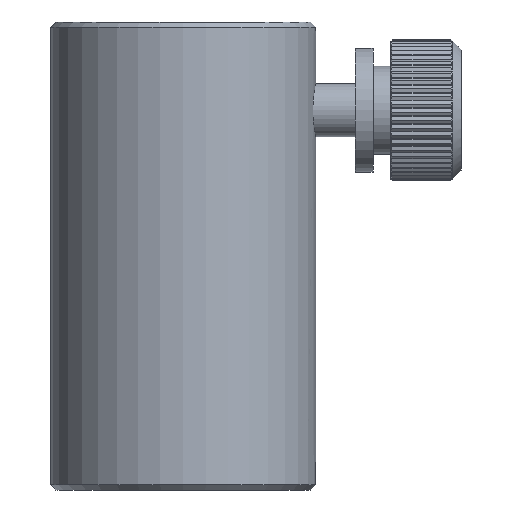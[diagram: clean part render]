
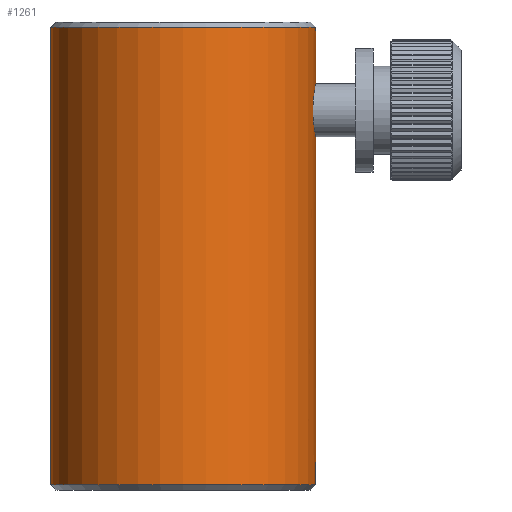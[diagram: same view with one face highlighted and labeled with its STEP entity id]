
A CAD part, left-side view. The second image highlights one B-rep face of the part: STEP entity #1261.
In plain terms, the highlighted cylindrical face has radius 7.5 mm (diameter 15 mm), a full revolution.
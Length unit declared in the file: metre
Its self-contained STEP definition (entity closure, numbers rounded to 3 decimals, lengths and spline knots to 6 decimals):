
#1261=ADVANCED_FACE('167:3413',(#2522,#2523,#2524),#2525,.T.);
#2522=FACE_OUTER_BOUND('',#3777,.T.);
#2523=FACE_OUTER_BOUND('',#3778,.T.);
#2524=FACE_BOUND('',#3779,.T.);
#2525=CYLINDRICAL_SURFACE('',#3780,0.0075);
#3777=EDGE_LOOP('',(#6863));
#3778=EDGE_LOOP('',(#6864));
#3779=EDGE_LOOP('',(#6865));
#3780=AXIS2_PLACEMENT_3D('',#6866,#6867,#6868);
#6863=ORIENTED_EDGE('',*,*,#8036,.F.);
#6864=ORIENTED_EDGE('',*,*,#8025,.F.);
#6865=ORIENTED_EDGE('',*,*,#8037,.T.);
#6866=CARTESIAN_POINT('',(0.0,0.0,0.0));
#6867=DIRECTION('',(0.0,0.0,1.0));
#6868=DIRECTION('',(1.0,0.,0.0));
#8025=EDGE_CURVE('167:3446',#9509,#9509,#9510,.T.);
#8036=EDGE_CURVE('167:3443',#9527,#9527,#9528,.T.);
#8037=EDGE_CURVE('167:3452',#9529,#9529,#9530,.T.);
#9509=VERTEX_POINT('',#11421);
#9510=CIRCLE('',#11422,0.0075);
#9527=VERTEX_POINT('',#11439);
#9528=CIRCLE('',#11440,0.0075);
#9529=VERTEX_POINT('',#11441);
#9530=B_SPLINE_CURVE_WITH_KNOTS('',3,(#11442,#11443,#11444,#11445,#11446,#11447,#11448,#11449,#11450,#11451,#11452,#11453,#11454,#11455,#11456,#11457,#11458,#11459,#11460,#11461,#11462,#11463,#11464,#11465,#11466,#11467,#11468,#11469,#11470,#11471,#11472,#11473,#11474,#11475,#11476),.UNSPECIFIED.,.T.,.F.,(2,1,1,1,1,1,1,1,1,1,1,1,1,1,1,1,1,1,1,1,1,1,1,1,1,1,1,1,1,1,1,1,1,1,1,1,2),(-0.062477,-0.030788,0.0,0.030788,0.062477,0.094186,0.124999,0.155812,0.187521,0.219211,0.25,0.280789,0.312479,0.344188,0.375001,0.405814,0.437523,0.469212,0.5,0.530788,0.562477,0.594186,0.624999,0.655812,0.687521,0.719211,0.75,0.780789,0.812479,0.844188,0.875001,0.905814,0.937523,0.969212,1.0,1.030788,1.062477),.UNSPECIFIED.);
#11421=CARTESIAN_POINT('',(0.0075,0.,0.0262));
#11422=AXIS2_PLACEMENT_3D('',#12888,#12889,#12890);
#11439=CARTESIAN_POINT('',(0.0075,0.,0.0003));
#11440=AXIS2_PLACEMENT_3D('',#12909,#12910,#12911);
#11441=CARTESIAN_POINT('',(0.0015,-0.007348,0.0215));
#11442=CARTESIAN_POINT('',(0.00148,-0.007353,0.021794));
#11443=CARTESIAN_POINT('',(0.00151,-0.007346,0.0215));
#11444=CARTESIAN_POINT('',(0.00148,-0.007353,0.021206));
#11445=CARTESIAN_POINT('',(0.001395,-0.007369,0.020921));
#11446=CARTESIAN_POINT('',(0.001253,-0.007395,0.02066));
#11447=CARTESIAN_POINT('',(0.001068,-0.007425,0.020432));
#11448=CARTESIAN_POINT('',(0.00084,-0.007454,0.020247));
#11449=CARTESIAN_POINT('',(0.000579,-0.007479,0.020105));
#11450=CARTESIAN_POINT('',(0.000294,-0.007496,0.02002));
#11451=CARTESIAN_POINT('',(0.,-0.007502,0.01999));
#11452=CARTESIAN_POINT('',(-0.000294,-0.007496,0.02002));
#11453=CARTESIAN_POINT('',(-0.000579,-0.007479,0.020105));
#11454=CARTESIAN_POINT('',(-0.00084,-0.007454,0.020247));
#11455=CARTESIAN_POINT('',(-0.001068,-0.007425,0.020432));
#11456=CARTESIAN_POINT('',(-0.001253,-0.007395,0.02066));
#11457=CARTESIAN_POINT('',(-0.001395,-0.007369,0.020921));
#11458=CARTESIAN_POINT('',(-0.00148,-0.007353,0.021206));
#11459=CARTESIAN_POINT('',(-0.00151,-0.007346,0.0215));
#11460=CARTESIAN_POINT('',(-0.00148,-0.007353,0.021794));
#11461=CARTESIAN_POINT('',(-0.001395,-0.007369,0.022079));
#11462=CARTESIAN_POINT('',(-0.001253,-0.007395,0.02234));
#11463=CARTESIAN_POINT('',(-0.001068,-0.007425,0.022568));
#11464=CARTESIAN_POINT('',(-0.00084,-0.007454,0.022753));
#11465=CARTESIAN_POINT('',(-0.000579,-0.007479,0.022895));
#11466=CARTESIAN_POINT('',(-0.000294,-0.007496,0.02298));
#11467=CARTESIAN_POINT('',(0.,-0.007502,0.02301));
#11468=CARTESIAN_POINT('',(0.000294,-0.007496,0.02298));
#11469=CARTESIAN_POINT('',(0.000579,-0.007479,0.022895));
#11470=CARTESIAN_POINT('',(0.00084,-0.007454,0.022753));
#11471=CARTESIAN_POINT('',(0.001068,-0.007425,0.022568));
#11472=CARTESIAN_POINT('',(0.001253,-0.007395,0.02234));
#11473=CARTESIAN_POINT('',(0.001395,-0.007369,0.022079));
#11474=CARTESIAN_POINT('',(0.00148,-0.007353,0.021794));
#11475=CARTESIAN_POINT('',(0.00151,-0.007346,0.0215));
#11476=CARTESIAN_POINT('',(0.00148,-0.007353,0.021206));
#12888=CARTESIAN_POINT('',(0.0,0.0,0.0262));
#12889=DIRECTION('',(0.0,0.0,1.0));
#12890=DIRECTION('',(-1.0,0.,0.0));
#12909=CARTESIAN_POINT('',(0.0,0.0,0.0003));
#12910=DIRECTION('',(-0.0,0.0,-1.0));
#12911=DIRECTION('',(-1.0,0.,0.0));
